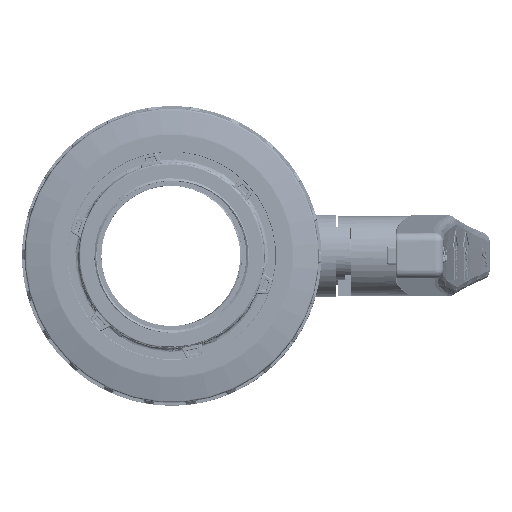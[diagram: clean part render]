
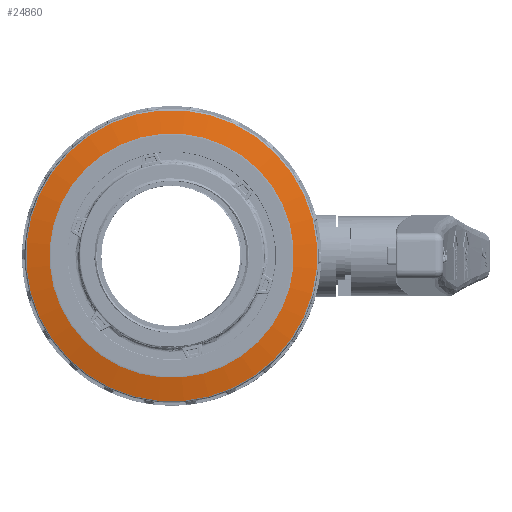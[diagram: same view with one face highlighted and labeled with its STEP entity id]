
A CAD part, top view. The second image highlights one B-rep face of the part: STEP entity #24860.
In plain terms, the highlighted conical face has half-angle 78 degrees and reference radius 76.25 mm.
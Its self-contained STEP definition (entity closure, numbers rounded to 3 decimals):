
#454=CONICAL_SURFACE('',#26779,76.25,1.361);
#698=FACE_BOUND('',#5381,.T.);
#2385=CIRCLE('',#26778,69.411);
#2386=CIRCLE('',#26780,82.708);
#3745=FACE_OUTER_BOUND('',#5380,.T.);
#5380=EDGE_LOOP('',(#18663));
#5381=EDGE_LOOP('',(#18664));
#10836=VERTEX_POINT('',#55471);
#10837=VERTEX_POINT('',#55474);
#13663=EDGE_CURVE('',#10836,#10836,#2385,.T.);
#13664=EDGE_CURVE('',#10837,#10837,#2386,.T.);
#18663=ORIENTED_EDGE('',*,*,#13664,.F.);
#18664=ORIENTED_EDGE('',*,*,#13663,.F.);
#24860=ADVANCED_FACE('',(#3745,#698),#454,.T.);
#26778=AXIS2_PLACEMENT_3D('',#55472,#30798,#30799);
#26779=AXIS2_PLACEMENT_3D('',#55473,#30800,#30801);
#26780=AXIS2_PLACEMENT_3D('',#55475,#30802,#30803);
#30798=DIRECTION('center_axis',(-1.,0.,0.));
#30799=DIRECTION('ref_axis',(0.,-1.,0.));
#30800=DIRECTION('center_axis',(1.,0.,0.));
#30801=DIRECTION('ref_axis',(0.,1.,0.));
#30802=DIRECTION('center_axis',(1.,0.,0.));
#30803=DIRECTION('ref_axis',(0.,-1.,0.));
#55471=CARTESIAN_POINT('',(0.087,69.411,0.));
#55472=CARTESIAN_POINT('Origin',(0.087,0.,0.));
#55473=CARTESIAN_POINT('Origin',(1.541,0.,0.));
#55474=CARTESIAN_POINT('',(2.914,82.708,0.));
#55475=CARTESIAN_POINT('Origin',(2.914,0.,0.));
